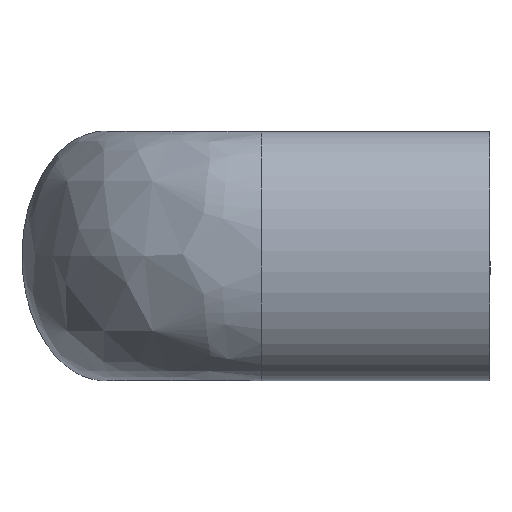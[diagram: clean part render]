
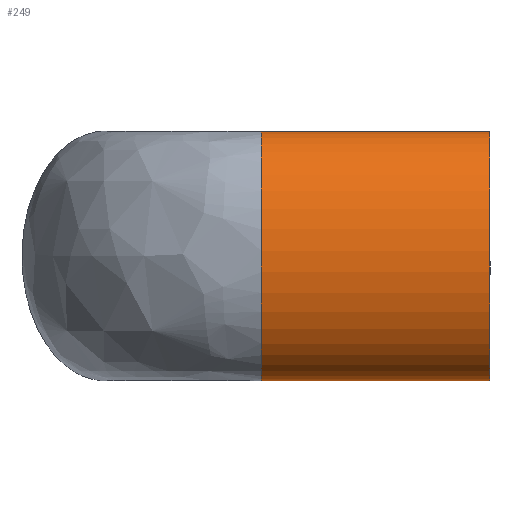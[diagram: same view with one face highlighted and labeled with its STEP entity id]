
A CAD part, left-side view. The second image highlights one B-rep face of the part: STEP entity #249.
In plain terms, the highlighted free-form (B-spline) face has degree [3, 1] with [4, 2] control points.
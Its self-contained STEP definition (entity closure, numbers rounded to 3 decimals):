
#6 = VECTOR ( 'NONE', #586, 1000. ) ;
#7 = CARTESIAN_POINT ( 'NONE',  ( -61.5, -15., 12. ) ) ;
#11 = CARTESIAN_POINT ( 'NONE',  ( -45.5, -15., 12. ) ) ;
#38 = CARTESIAN_POINT ( 'NONE',  ( -45.5, -15., 12. ) ) ;
#88 =( BOUNDED_CURVE ( )  B_SPLINE_CURVE ( 3, ( #11, #7, #111, #530 ),
 .UNSPECIFIED., .F., .T. ) 
 B_SPLINE_CURVE_WITH_KNOTS ( ( 4, 4 ),
 ( 3.142, 6.283 ),
 .UNSPECIFIED. ) 
 CURVE ( )  GEOMETRIC_REPRESENTATION_ITEM ( )  RATIONAL_B_SPLINE_CURVE ( ( 1., 0.333, 0.333, 1. ) ) 
 REPRESENTATION_ITEM ( '' )  );
#100 = ORIENTED_EDGE ( 'NONE', *, *, #443, .F. ) ;
#110 = VECTOR ( 'NONE', #637, 1000. ) ;
#111 = CARTESIAN_POINT ( 'NONE',  ( -61.5, -15., -12. ) ) ;
#121 = ORIENTED_EDGE ( 'NONE', *, *, #182, .T. ) ;
#124 = FACE_OUTER_BOUND ( 'NONE', #242, .T. ) ;
#126 = CARTESIAN_POINT ( 'NONE',  ( -45.5, -37., 12. ) ) ;
#152 = ORIENTED_EDGE ( 'NONE', *, *, #598, .F. ) ;
#163 = ORIENTED_EDGE ( 'NONE', *, *, #315, .T. ) ;
#169 =( BOUNDED_SURFACE ( )  B_SPLINE_SURFACE ( 3, 1, ( 
 ( #430, #126 ),
 ( #466, #471 ),
 ( #496, #480 ),
 ( #490, #423 ) ),
 .UNSPECIFIED., .F., .F., .F. ) 
 B_SPLINE_SURFACE_WITH_KNOTS ( ( 4, 4 ),
 ( 2, 2 ),
 ( 0., 1. ),
 ( 0., 1. ),
 .UNSPECIFIED. ) 
 GEOMETRIC_REPRESENTATION_ITEM ( )  RATIONAL_B_SPLINE_SURFACE ( (
 ( 1., 1.),
 ( 0.333, 0.333),
 ( 0.333, 0.333),
 ( 1., 1.) ) ) 
 REPRESENTATION_ITEM ( '' )  SURFACE ( )  );
#182 = EDGE_CURVE ( 'NONE', #656, #511, #88, .T. ) ;
#242 = EDGE_LOOP ( 'NONE', ( #100, #121, #163, #152 ) ) ;
#249 = ADVANCED_FACE ( 'NONE', ( #124 ), #169, .T. ) ;
#263 = CARTESIAN_POINT ( 'NONE',  ( -45.5, -37., -12. ) ) ;
#265 = CARTESIAN_POINT ( 'NONE',  ( -61.5, -37., -12. ) ) ;
#271 = CARTESIAN_POINT ( 'NONE',  ( -45.5, -37., 12. ) ) ;
#274 = LINE ( 'NONE', #300, #110 ) ;
#277 = CARTESIAN_POINT ( 'NONE',  ( -61.5, -37., 12. ) ) ;
#282 = VERTEX_POINT ( 'NONE', #596 ) ;
#300 = CARTESIAN_POINT ( 'NONE',  ( -45.5, -15., 12. ) ) ;
#310 =( BOUNDED_CURVE ( )  B_SPLINE_CURVE ( 3, ( #271, #277, #265, #263 ),
 .UNSPECIFIED., .F., .T. ) 
 B_SPLINE_CURVE_WITH_KNOTS ( ( 4, 4 ),
 ( 3.142, 6.283 ),
 .UNSPECIFIED. ) 
 CURVE ( )  GEOMETRIC_REPRESENTATION_ITEM ( )  RATIONAL_B_SPLINE_CURVE ( ( 1., 0.333, 0.333, 1. ) ) 
 REPRESENTATION_ITEM ( '' )  );
#315 = EDGE_CURVE ( 'NONE', #511, #282, #542, .T. ) ;
#339 = CARTESIAN_POINT ( 'NONE',  ( -45.5, -37., 12. ) ) ;
#407 = VERTEX_POINT ( 'NONE', #339 ) ;
#423 = CARTESIAN_POINT ( 'NONE',  ( -45.5, -37., -12. ) ) ;
#426 = CARTESIAN_POINT ( 'NONE',  ( -45.5, -15., -12. ) ) ;
#430 = CARTESIAN_POINT ( 'NONE',  ( -45.5, -15., 12. ) ) ;
#443 = EDGE_CURVE ( 'NONE', #656, #407, #274, .T. ) ;
#466 = CARTESIAN_POINT ( 'NONE',  ( -61.5, -15., 12. ) ) ;
#471 = CARTESIAN_POINT ( 'NONE',  ( -61.5, -37., 12. ) ) ;
#480 = CARTESIAN_POINT ( 'NONE',  ( -61.5, -37., -12. ) ) ;
#490 = CARTESIAN_POINT ( 'NONE',  ( -45.5, -15., -12. ) ) ;
#496 = CARTESIAN_POINT ( 'NONE',  ( -61.5, -15., -12. ) ) ;
#511 = VERTEX_POINT ( 'NONE', #426 ) ;
#530 = CARTESIAN_POINT ( 'NONE',  ( -45.5, -15., -12. ) ) ;
#542 = LINE ( 'NONE', #654, #6 ) ;
#586 = DIRECTION ( 'NONE',  ( 0., -1., 0. ) ) ;
#596 = CARTESIAN_POINT ( 'NONE',  ( -45.5, -37., -12. ) ) ;
#598 = EDGE_CURVE ( 'NONE', #407, #282, #310, .T. ) ;
#637 = DIRECTION ( 'NONE',  ( 0., -1., 0. ) ) ;
#654 = CARTESIAN_POINT ( 'NONE',  ( -45.5, -15., -12. ) ) ;
#656 = VERTEX_POINT ( 'NONE', #38 ) ;
